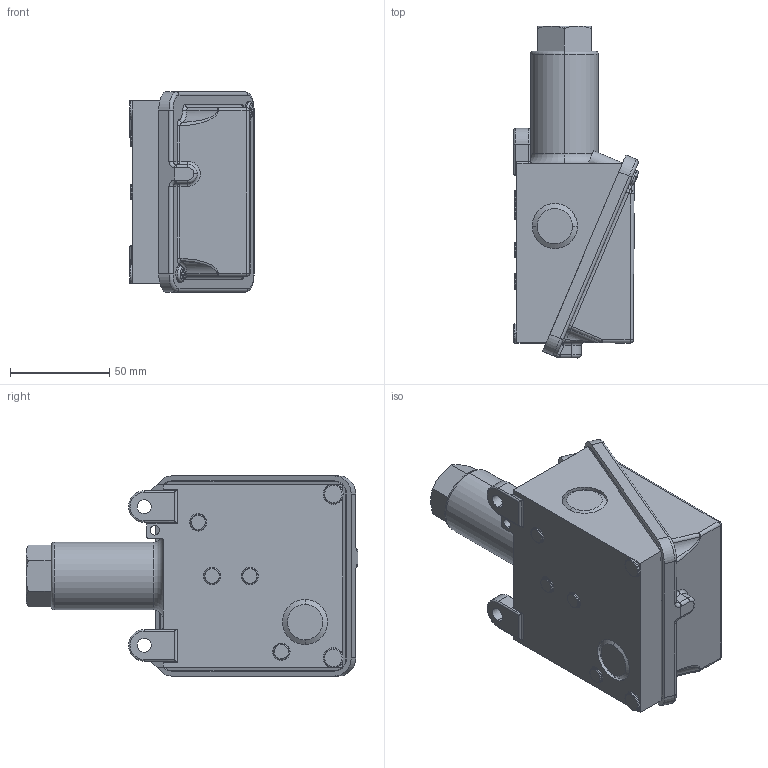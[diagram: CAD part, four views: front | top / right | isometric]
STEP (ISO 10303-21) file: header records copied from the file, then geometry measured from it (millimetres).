
FILE_DESCRIPTION (( 'STEP AP214' ), '1' );
FILE_NAME ('H100-188_189, 488_489_V1.STEP', '2025-02-21T18:12:22', ( '' ), ( '' ), 'SwSTEP 2.0', 'SolidWorks 2023', '' );
FILE_SCHEMA (( 'AUTOMOTIVE_DESIGN' ));
Length unit declared in the file: inch
Products named in the file (1): H100-188_189, 488_489_V1
Bounding box: 62.62 x 167.16 x 100.84 mm (x, y, z)
Volume: 187136.2 mm3; surface area: 115216.1 mm2
Topology: 7 solids, 7 shells, 824 faces, 1945 edges, 1146 vertices
Faces by surface type: cylinder 348, plane 244, torus 107, cone 53, bspline 36, sphere 36
Entity records: 24874 total; most frequent: CARTESIAN_POINT 5854, DIRECTION 4237, ORIENTED_EDGE 3802, EDGE_CURVE 1901, AXIS2_PLACEMENT_3D 1683, VERTEX_POINT 1146, EDGE_LOOP 903, CIRCLE 894
